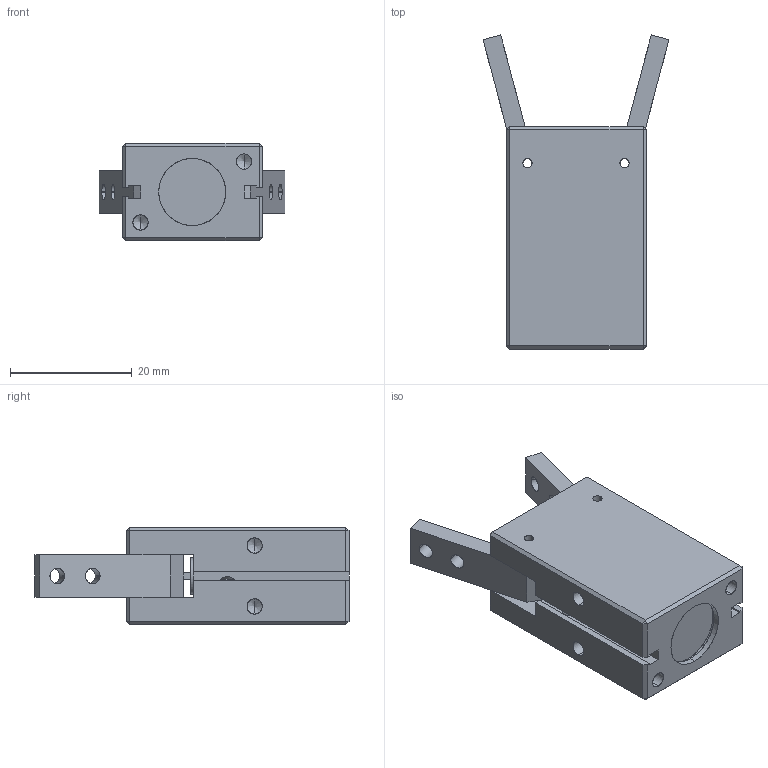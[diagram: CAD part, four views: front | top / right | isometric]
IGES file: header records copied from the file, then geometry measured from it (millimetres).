
Start section: SolidWorks IGES file using analytic representation for surfaces
Global section: file name: C:\Documents and Settings\SGA\Bureau\GDS.10\GDS.10-OPEN.IGS; native system: SolidWorks 2010; preprocessor: SolidWorks 2010; author: SGA; date: 111020.134522; units: millimetre
Bounding box: 30.53 x 51.57 x 16 mm (x, y, z)
Surface area: 7144.9 mm2 (no closed solid volume)
Topology: 0 solids, 0 shells, 574 faces, 5946 edges, 5934 vertices
Faces by surface type: bspline 513, revolution 61
